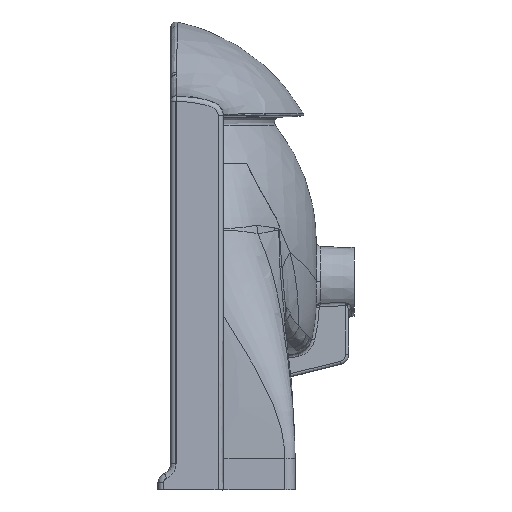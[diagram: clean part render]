
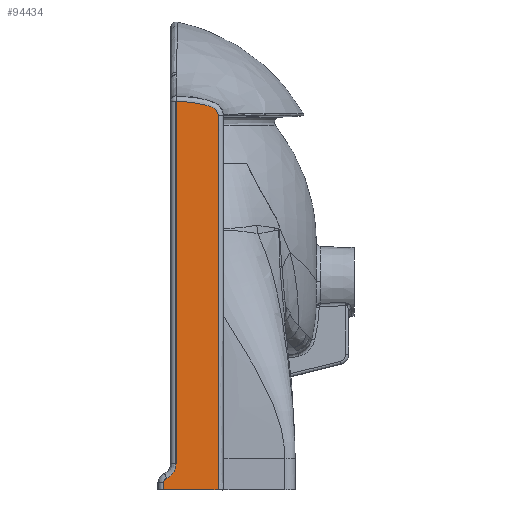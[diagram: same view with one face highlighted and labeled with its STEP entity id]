
A CAD part, left-side view. The second image highlights one B-rep face of the part: STEP entity #94434.
In plain terms, the highlighted planar face has unit normal (-1, -0.03, 0).
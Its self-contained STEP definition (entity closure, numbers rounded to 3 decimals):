
#1810 = CARTESIAN_POINT ( 'NONE',  ( -1277.361, -5.15, -124.996 ) ) ;
#2484 = CARTESIAN_POINT ( 'NONE',  ( -1276.162, -45.118, 205.996 ) ) ;
#4635 = CARTESIAN_POINT ( 'NONE',  ( -1277.721, 6.85, -143.327 ) ) ;
#8323 = LINE ( 'NONE', #200444, #31397 ) ;
#9532 = CARTESIAN_POINT ( 'NONE',  ( -1276.161, -45.15, 205.03 ) ) ;
#10131 = PLANE ( 'NONE',  #65900 ) ;
#14994 = CARTESIAN_POINT ( 'NONE',  ( -1276.496, -33.974, 214.999 ) ) ;
#16019 = CARTESIAN_POINT ( 'NONE',  ( -1276.967, -18.288, 217.906 ) ) ;
#20648 =( BOUNDED_CURVE ( )  B_SPLINE_CURVE ( 3, ( #195765, #70047, #79766, #4635 ),
 .UNSPECIFIED., .F., .F. ) 
 B_SPLINE_CURVE_WITH_KNOTS ( ( 4, 4 ),
 ( 5.124, 6.283 ),
 .UNSPECIFIED. ) 
 CURVE ( )  GEOMETRIC_REPRESENTATION_ITEM ( )  RATIONAL_B_SPLINE_CURVE ( ( 1., 0.891, 0.891, 1. ) ) 
 REPRESENTATION_ITEM ( '' )  );
#24439 = CARTESIAN_POINT ( 'NONE',  ( -1276.165, -45., -90.828 ) ) ;
#26486 = CARTESIAN_POINT ( 'NONE',  ( -1277.721, 6.85, -143.327 ) ) ;
#31397 = VECTOR ( 'NONE', #71682, 1000. ) ;
#31611 = CARTESIAN_POINT ( 'NONE',  ( -1277.248, -8.911, 218.639 ) ) ;
#32636 = CARTESIAN_POINT ( 'NONE',  ( -1276.167, -44.953, 206.936 ) ) ;
#33795 = VERTEX_POINT ( 'NONE', #185863 ) ;
#33927 = CARTESIAN_POINT ( 'NONE',  ( -1277.631, 3.85, -138.744 ) ) ;
#35167 = ORIENTED_EDGE ( 'NONE', *, *, #193909, .T. ) ;
#45321 = VERTEX_POINT ( 'NONE', #26486 ) ;
#45367 = EDGE_CURVE ( 'NONE', #33795, #159510, #92508, .T. ) ;
#45442 = VECTOR ( 'NONE', #131827, 1000. ) ;
#45959 = DIRECTION ( 'NONE',  ( 0., 0., -1. ) ) ;
#46518 = CARTESIAN_POINT ( 'NONE',  ( -1277.631, 3.85, -138.744 ) ) ;
#47191 = CARTESIAN_POINT ( 'NONE',  ( -1277.361, -5.15, 218.804 ) ) ;
#53904 = CARTESIAN_POINT ( 'NONE',  ( -1276.148, -45.576, -150. ) ) ;
#57446 = LINE ( 'NONE', #187237, #187812 ) ;
#58289 = ORIENTED_EDGE ( 'NONE', *, *, #45367, .T. ) ;
#61755 = CARTESIAN_POINT ( 'NONE',  ( -1276.339, -39.223, 212.912 ) ) ;
#62787 = CARTESIAN_POINT ( 'NONE',  ( -1276.234, -42.719, 210.522 ) ) ;
#63800 = CARTESIAN_POINT ( 'NONE',  ( -1276.469, -34.871, 214.712 ) ) ;
#64818 = CARTESIAN_POINT ( 'NONE',  ( -1276.205, -43.685, 209.481 ) ) ;
#65900 = AXIS2_PLACEMENT_3D ( 'NONE', #131745, #179540, #132762 ) ;
#69043 = EDGE_CURVE ( 'NONE', #128909, #33795, #148437, .T. ) ;
#70047 = CARTESIAN_POINT ( 'NONE',  ( -1277.687, 5.728, -139.564 ) ) ;
#71196 = CARTESIAN_POINT ( 'NONE',  ( -1276.161, -45.15, 205.03 ) ) ;
#71682 = DIRECTION ( 'NONE',  ( 0., 0., -1. ) ) ;
#77334 = CARTESIAN_POINT ( 'NONE',  ( -1276.179, -44.549, 208.056 ) ) ;
#78362 = CARTESIAN_POINT ( 'NONE',  ( -1276.911, -20.159, 217.702 ) ) ;
#78498 = EDGE_CURVE ( 'NONE', #170626, #45321, #20648, .T. ) ;
#79250 = CARTESIAN_POINT ( 'NONE',  ( -1277.361, -5.15, -124.996 ) ) ;
#79766 = CARTESIAN_POINT ( 'NONE',  ( -1277.721, 6.85, -141.278 ) ) ;
#80401 = CARTESIAN_POINT ( 'NONE',  ( -1276.182, -44.444, 208.274 ) ) ;
#81482 = CARTESIAN_POINT ( 'NONE',  ( -1277.361, -5.15, 218.804 ) ) ;
#87796 = CARTESIAN_POINT ( 'NONE',  ( -1276.164, -45.034, 86.687 ) ) ;
#88057 = FACE_OUTER_BOUND ( 'NONE', #147315, .T. ) ;
#88821 = CARTESIAN_POINT ( 'NONE',  ( -1276.165, -45.006, -31.657 ) ) ;
#92508 = B_SPLINE_CURVE_WITH_KNOTS ( 'NONE', 3,
 ( #166774, #24439, #88821, #104396, #87796, #118960, #119974, #138638, #103374, #71196 ),
 .UNSPECIFIED., .F., .F.,
 ( 4, 2, 2, 2, 4 ),
 ( 0., 0.178, 0.266, 0.311, 0.355 ),
 .UNSPECIFIED. ) ;
#94434 = ADVANCED_FACE ( 'NONE', ( #88057 ), #10131, .F. ) ;
#94969 = CARTESIAN_POINT ( 'NONE',  ( -1276.743, -25.751, 216.914 ) ) ;
#95316 = CARTESIAN_POINT ( 'NONE',  ( -1277.361, -5.15, -131.143 ) ) ;
#95989 = CARTESIAN_POINT ( 'NONE',  ( -1276.193, -44.088, 208.896 ) ) ;
#103374 = CARTESIAN_POINT ( 'NONE',  ( -1276.162, -45.115, 190.237 ) ) ;
#104396 = CARTESIAN_POINT ( 'NONE',  ( -1276.165, -45.026, 57.101 ) ) ;
#108486 = CARTESIAN_POINT ( 'NONE',  ( -1276.214, -43.381, 209.842 ) ) ;
#111553 = CARTESIAN_POINT ( 'NONE',  ( -1276.278, -41.231, 211.704 ) ) ;
#118960 = CARTESIAN_POINT ( 'NONE',  ( -1276.164, -45.058, 131.065 ) ) ;
#119974 = CARTESIAN_POINT ( 'NONE',  ( -1276.163, -45.068, 145.858 ) ) ;
#120081 = CARTESIAN_POINT ( 'NONE',  ( -1277.721, 6.85, -150. ) ) ;
#124065 = CARTESIAN_POINT ( 'NONE',  ( -1276.171, -44.822, 207.393 ) ) ;
#125102 = CARTESIAN_POINT ( 'NONE',  ( -1276.39, -37.525, 213.711 ) ) ;
#126130 = CARTESIAN_POINT ( 'NONE',  ( -1276.577, -31.266, 215.781 ) ) ;
#126779 = ORIENTED_EDGE ( 'NONE', *, *, #142076, .T. ) ;
#127343 = ORIENTED_EDGE ( 'NONE', *, *, #78498, .T. ) ;
#128909 = VERTEX_POINT ( 'NONE', #120081 ) ;
#131381 =( BOUNDED_CURVE ( )  B_SPLINE_CURVE ( 3, ( #1810, #95316, #142079, #46518 ),
 .UNSPECIFIED., .F., .F. ) 
 B_SPLINE_CURVE_WITH_KNOTS ( ( 4, 4 ),
 ( 3.142, 4.301 ),
 .UNSPECIFIED. ) 
 CURVE ( )  GEOMETRIC_REPRESENTATION_ITEM ( )  RATIONAL_B_SPLINE_CURVE ( ( 1., 0.891, 0.891, 1. ) ) 
 REPRESENTATION_ITEM ( '' )  );
#131745 = CARTESIAN_POINT ( 'NONE',  ( -1276.148, -45.576, -150. ) ) ;
#131827 = DIRECTION ( 'NONE',  ( 0.03, -1., 0. ) ) ;
#132762 = DIRECTION ( 'NONE',  ( -0.03, 1., 0. ) ) ;
#138638 = CARTESIAN_POINT ( 'NONE',  ( -1276.162, -45.097, 175.444 ) ) ;
#140695 = CARTESIAN_POINT ( 'NONE',  ( -1276.245, -42.359, 210.842 ) ) ;
#141728 = CARTESIAN_POINT ( 'NONE',  ( -1277.135, -12.667, 218.421 ) ) ;
#142076 = EDGE_CURVE ( 'NONE', #159510, #144697, #156979, .T. ) ;
#142079 = CARTESIAN_POINT ( 'NONE',  ( -1277.462, -1.783, -136.286 ) ) ;
#144697 = VERTEX_POINT ( 'NONE', #81482 ) ;
#144785 = CARTESIAN_POINT ( 'NONE',  ( -1276.161, -45.15, 205.03 ) ) ;
#147315 = EDGE_LOOP ( 'NONE', ( #127343, #199466, #189295, #58289, #126779, #195112, #35167 ) ) ;
#148437 = LINE ( 'NONE', #53904, #45442 ) ;
#153274 = EDGE_CURVE ( 'NONE', #144697, #177481, #8323, .T. ) ;
#156979 = B_SPLINE_CURVE_WITH_KNOTS ( 'NONE', 3,
 ( #144785, #191562, #2484, #32636, #124065, #77334, #80401, #187455, #95989, #64818, #108486, #62787, #140695, #171889, #111553, #204068, #61755, #125102, #174958, #63800, #14994, #126130, #189515, #94969, #159362, #78362, #16019, #141728, #31611, #47191 ),
 .UNSPECIFIED., .F., .F.,
 ( 4, 2, 2, 2, 2, 2, 2, 2, 2, 2, 2, 2, 2, 2, 4 ),
 ( 0., 0.001, 0.003, 0.004, 0.004, 0.006, 0.007, 0.009, 0.012, 0.014, 0.017, 0.023, 0.029, 0.035, 0.046 ),
 .UNSPECIFIED. ) ;
#159362 = CARTESIAN_POINT ( 'NONE',  ( -1276.799, -23.893, 217.206 ) ) ;
#159510 = VERTEX_POINT ( 'NONE', #9532 ) ;
#166774 = CARTESIAN_POINT ( 'NONE',  ( -1276.165, -44.996, -150. ) ) ;
#170626 = VERTEX_POINT ( 'NONE', #33927 ) ;
#171423 = EDGE_CURVE ( 'NONE', #45321, #128909, #57446, .T. ) ;
#171889 = CARTESIAN_POINT ( 'NONE',  ( -1276.267, -41.615, 211.432 ) ) ;
#174958 = CARTESIAN_POINT ( 'NONE',  ( -1276.416, -36.649, 214.067 ) ) ;
#177481 = VERTEX_POINT ( 'NONE', #79250 ) ;
#179540 = DIRECTION ( 'NONE',  ( 1., 0.03, 0. ) ) ;
#185863 = CARTESIAN_POINT ( 'NONE',  ( -1276.165, -44.996, -150. ) ) ;
#187237 = CARTESIAN_POINT ( 'NONE',  ( -1277.721, 6.85, -150. ) ) ;
#187455 = CARTESIAN_POINT ( 'NONE',  ( -1276.189, -44.213, 208.694 ) ) ;
#187812 = VECTOR ( 'NONE', #45959, 1000. ) ;
#189295 = ORIENTED_EDGE ( 'NONE', *, *, #69043, .T. ) ;
#189515 = CARTESIAN_POINT ( 'NONE',  ( -1276.632, -29.437, 216.201 ) ) ;
#191562 = CARTESIAN_POINT ( 'NONE',  ( -1276.161, -45.153, 205.512 ) ) ;
#193909 = EDGE_CURVE ( 'NONE', #177481, #170626, #131381, .T. ) ;
#195112 = ORIENTED_EDGE ( 'NONE', *, *, #153274, .T. ) ;
#195765 = CARTESIAN_POINT ( 'NONE',  ( -1277.631, 3.85, -138.744 ) ) ;
#199466 = ORIENTED_EDGE ( 'NONE', *, *, #171423, .T. ) ;
#200444 = CARTESIAN_POINT ( 'NONE',  ( -1277.361, -5.15, -124.996 ) ) ;
#204068 = CARTESIAN_POINT ( 'NONE',  ( -1276.314, -40.049, 212.47 ) ) ;
